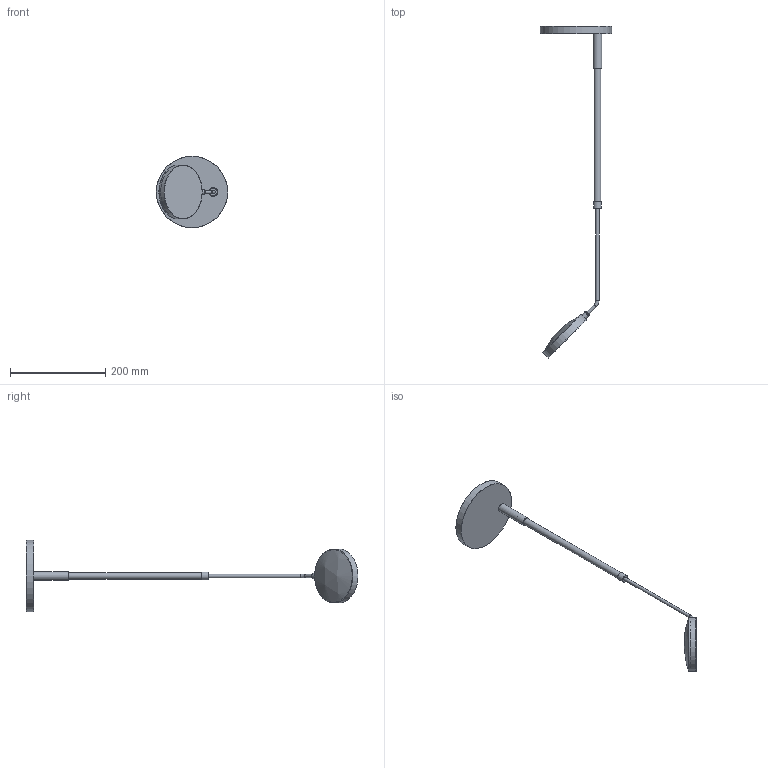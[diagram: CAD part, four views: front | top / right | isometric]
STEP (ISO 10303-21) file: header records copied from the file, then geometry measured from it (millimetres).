
FILE_DESCRIPTION(/* description */ (''),/* implementation_level */ '2;1');
FILE_NAME(/* name */ 'C:\Users\STEFANO\Desktop\Spoon\TAVOLO\SEM.000131.stp',/* time_stamp */ '2020-06-10T15:17:29+02:00',/* author */ ('STEFANO'),/* organization */ (''),/* preprocessor_version */ 'ST-DEVELOPER v18.1',/* originating_system */ 'Autodesk Inventor 2020',/* authorisation */ '');
FILE_SCHEMA (('AUTOMOTIVE_DESIGN { 1 0 10303 214 3 1 1 }'));
Length unit declared in the file: millimetre
Products named in the file (11): SEM.000131; 100091; 100092; 100099; 100098; 100095; 100097; P09_023_1 - Perno rotazione testa; P09_024 - Asta curvata; P09_025 - Anello di raccordo asta; 100096
Assembly tree (10 placements, depth 4):
  SEM.000131
    100091
    100092
    100099
    100098
      100095
      100097
        P09_023_1 - Perno rotazione testa
        P09_024 - Asta curvata
        P09_025 - Anello di raccordo asta
      100096
Bounding box: 150 x 698.58 x 150 mm (x, y, z)
Volume: 536340.8 mm3; surface area: 128545.7 mm2
Topology: 8 solids, 8 shells, 46 faces, 78 edges, 51 vertices
Faces by surface type: plane 17, cylinder 16, cone 7, torus 4, sphere 2
Full cylindrical faces by diameter (mm): 4 x2, 5 x1, 7 x2, 7.2 x1, 10.5 x1, 12 x2, 14 x1, 16 x1, 18 x1, 96 x1, 111 x1, 113.5 x1, 150 x1
Entity records: 1602 total; most frequent: DIRECTION 265, CARTESIAN_POINT 231, ORIENTED_EDGE 156, AXIS2_PLACEMENT_3D 121, EDGE_CURVE 78, EDGE_LOOP 55, CIRCLE 53, VERTEX_POINT 51
